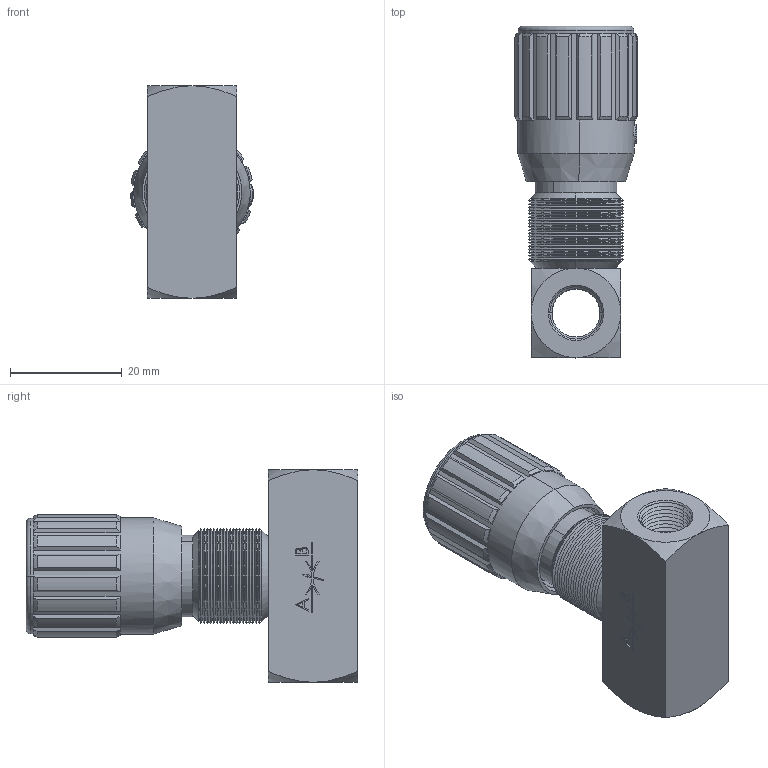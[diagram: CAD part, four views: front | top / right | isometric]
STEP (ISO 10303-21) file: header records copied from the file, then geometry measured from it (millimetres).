
FILE_DESCRIPTION (( 'STEP AP214' ), '1' );
FILE_NAME ('2257-2-18.STEP', '2015-04-11T11:04:13', ( '' ), ( '' ), 'SwSTEP 2.0', 'SolidWorks 2014', '' );
FILE_SCHEMA (( 'AUTOMOTIVE_DESIGN' ));
Length unit declared in the file: millimetre
Products named in the file (1): 2257-2-18
Bounding box: 21.99 x 59.3 x 38 mm (x, y, z)
Surface area: 7990.7 mm2 (no closed solid volume)
Topology: 0 solids, 32 shells, 656 faces, 2155 edges, 1477 vertices
Faces by surface type: plane 340, cone 184, bspline 80, cylinder 50, torus 2
Entity records: 36160 total; most frequent: CARTESIAN_POINT 10927, ORIENTED_EDGE 3564, DIRECTION 3410, EDGE_CURVE 2155, VERTEX_POINT 1477, VECTOR 1454, LINE 1454, AXIS2_PLACEMENT_3D 978
